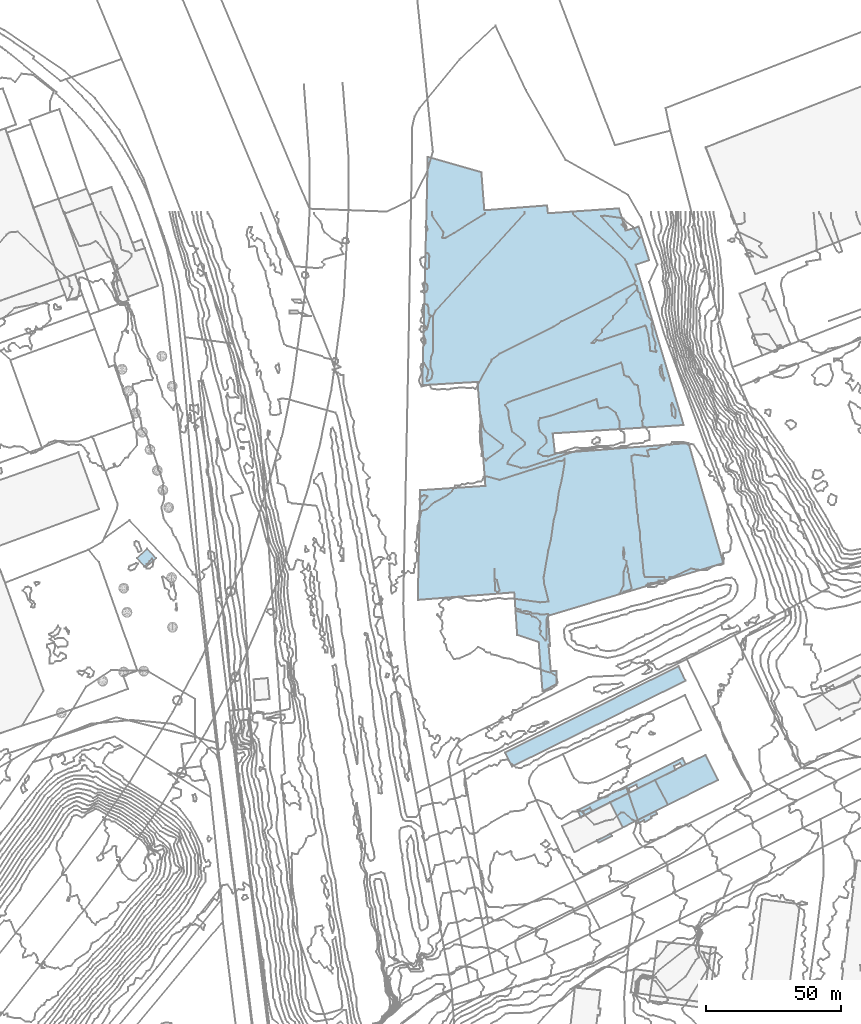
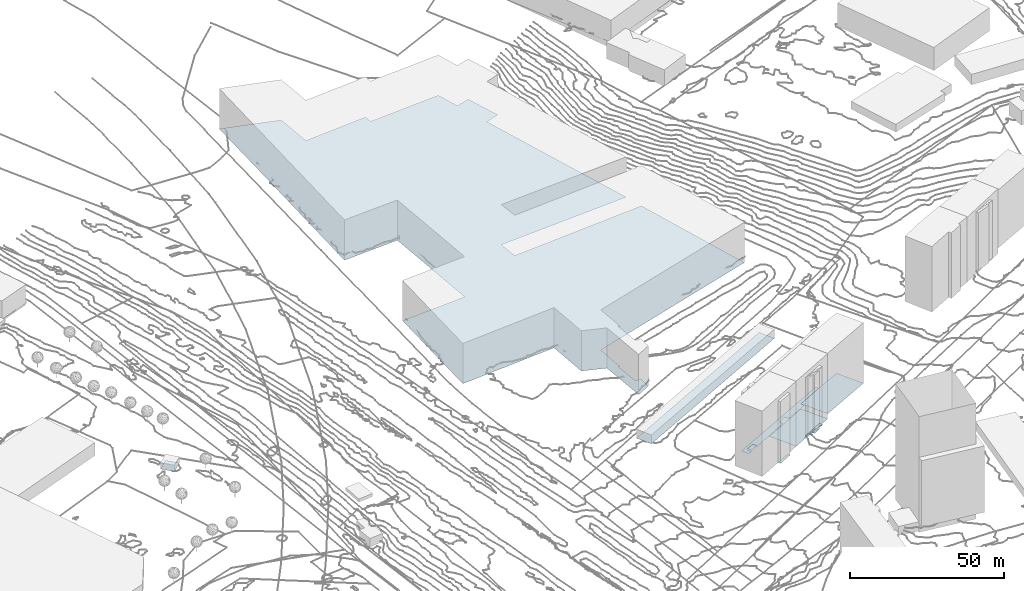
# Not in any storey, part 17 of 419: 9 footings.
"""IFC2X3 model written with IfcOpenShell, lengths in metres."""

from ifc_helpers import new_model, si_unit, frame, origin_with_axes, place, context, subcontext, project, faceted_brep, element, save


model = new_model("IFC2X3")

# Units and contexts
model_context = context("Model", 3, precision=1e-05, world=origin_with_axes())
body_context = subcontext(model_context, "Body", "Model", "MODEL_VIEW")
ifc_project = project(units=[si_unit("AREAUNIT", "SQUARE_METRE"), si_unit("LENGTHUNIT", "METRE")], contexts=[model_context])

# Footings
footing_1_placement = place(None, frame((290.7920204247, 821.6976909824, 30.277000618), z_axis=(0.0, 0.0, 1.0), x_axis=(1.0, 0.0, 0.0)))
element("IfcFooting", 1, at=footing_1_placement, Name="Sol 0", PredefinedType="STRIP_FOOTING", context=body_context, shape_type="Brep", body=[
    faceted_brep([(0.0, 0.0, 0.0), (11.4, 5.7999999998, 0.0), (18.7000000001, 9.2000000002, 0.0), (23.4, 0.0, 0.0), (4.7000000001, -9.2000000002, 0.0)], [[[0, 1, 2]], [[3, 4, 0]], [[0, 2, 3]]]),
])
footing_2_placement = place(None, frame((269.1920204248, 799.2976909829, 28.2199993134), z_axis=(0.0, 0.0, 1.0), x_axis=(1.0, 0.0, 0.0)))
element("IfcFooting", 2, at=footing_2_placement, Name="Sol 0", PredefinedType="STRIP_FOOTING", context=body_context, shape_type="Brep", body=[
    faceted_brep([(0.5, -0.9000000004, 0.0), (0.0, 0.0, 0.0), (5.1, 2.5, 0.0), (5.5, 1.5999999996, 0.0)], [[[0, 1, 2]], [[2, 3, 0]]]),
])
footing_3_placement = place(None, frame((98.4920204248, 904.0976909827, 21.8522004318), z_axis=(0.0, 0.0, 1.0), x_axis=(1.0, 0.0, 0.0)))
element("IfcFooting", 3, at=footing_3_placement, Name="Sol 0", PredefinedType="STRIP_FOOTING", context=body_context, shape_type="Brep", body=[
    faceted_brep([(0.0, 0.0, 0.0), (3.7999999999, 3.5, 0.0), (7.0, -0.1000000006, 0.0), (3.2, -3.5, 0.0)], [[[0, 1, 2]], [[2, 3, 0]]]),
])
footing_4_placement = place(None, frame((274.0920204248, 813.3976909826, 28.3087998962), z_axis=(0.0, 0.0, 1.0), x_axis=(1.0, 0.0, 0.0)))
element("IfcFooting", 4, at=footing_4_placement, Name="Sol 0", PredefinedType="STRIP_FOOTING", context=body_context, shape_type="Brep", body=[
    faceted_brep([(0.0, 0.0, 0.0), (16.7, 8.2999999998, 0.0), (21.4, -0.9000000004, 0.0), (4.7, -9.2999999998, 0.0)], [[[0, 1, 2]], [[2, 3, 0]]]),
])
footing_5_placement = place(None, frame((235.0920204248, 831.8976909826, 29.9789994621), z_axis=(0.0, 0.0, 1.0), x_axis=(1.0, 0.0, 0.0)))
element("IfcFooting", 5, at=footing_5_placement, Name="Sol 0", PredefinedType="STRIP_FOOTING", context=body_context, shape_type="Brep", body=[
    faceted_brep([(67.0, 26.5999999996, 0.0), (2.6, -5.2000000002, 0.0), (0.0, 0.0, 0.0), (64.4, 32.0, 0.0)], [[[0, 1, 2]], [[2, 3, 0]]]),
])
footing_6_placement = place(None, frame((264.0920204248, 810.0976909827, 28.9349998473), z_axis=(0.0, 0.0, 1.0), x_axis=(1.0, 0.0, 0.0)))
element("IfcFooting", 6, at=footing_6_placement, Name="Sol 0", PredefinedType="STRIP_FOOTING", context=body_context, shape_type="Brep", body=[
    faceted_brep([(2.6, 1.2999999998, 0.0), (3.5, 0.0, 0.0), (0.5, -1.6000000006, 0.0), (0.0, 0.0, 0.0)], [[[0, 1, 2]], [[2, 3, 0]]]),
])
footing_7_placement = place(None, frame((261.9920204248, 810.4976909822, 28.4848001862), z_axis=(0.0, 0.0, 1.0), x_axis=(1.0, 0.0, 0.0)))
element("IfcFooting", 7, at=footing_7_placement, Name="Sol 0", PredefinedType="STRIP_FOOTING", context=body_context, shape_type="Brep", body=[
    faceted_brep([(39.0, 19.3000000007, 0.0), (40.2, 17.0, 0.0), (38.7999999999, 16.3000000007, 0.0), (2.6, -2.0, 0.0), (1.2, -2.6999999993, 0.0), (0.0, 0.0, 0.0), (19.5, 6.6000000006, 0.0), (5.6, -0.3999999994, 0.0), (4.7, 0.9000000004, 0.0), (36.2999999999, 14.9000000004, 0.0), (22.4, 8.1000000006, 0.0), (21.7999999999, 9.5, 0.0), (38.1, 17.5, 0.0), (2.1, -0.3999999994, 0.0), (19.0, 8.0, 0.0), (35.7999999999, 16.3000000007, 0.0)], [[[0, 1, 2]], [[3, 4, 5]], [[6, 7, 8]], [[9, 10, 11]], [[0, 2, 12]], [[13, 3, 5]], [[14, 6, 8]], [[15, 9, 11]], [[0, 12, 15]], [[13, 5, 0]], [[11, 14, 8]], [[0, 15, 11]], [[8, 13, 0]], [[0, 11, 8]]]),
])
footing_8_placement = place(None, frame((283.6920204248, 806.3976909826, 29.4510004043), z_axis=(0.0, 0.0, 1.0), x_axis=(1.0, 0.0, 0.0)))
element("IfcFooting", 8, at=footing_8_placement, Name="Sol 0", PredefinedType="STRIP_FOOTING", context=body_context, shape_type="Brep", body=[
    faceted_brep([(0.0, 0.0, 0.0), (7.4, 3.7999999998, 0.0), (7.7000000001, 2.5999999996, 0.0), (2.9, 0.2999999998, 0.0), (0.4, -0.9000000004, 0.0), (5.8, 1.0999999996, 0.0), (3.2000000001, -0.4000000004, 0.0), (5.5, 1.7000000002, 0.0)], [[[0, 1, 2]], [[3, 4, 0]], [[5, 6, 3]], [[0, 2, 7]], [[5, 3, 0]], [[0, 7, 5]]]),
])
footing_9_placement = place(None, frame((202.6920204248, 888.4976909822, 28.5593996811), z_axis=(0.0, 0.0, 1.0), x_axis=(1.0, 0.0, 0.0)))
element("IfcFooting", 9, at=footing_9_placement, Name="Sol 0", PredefinedType="STRIP_FOOTING", context=body_context, shape_type="Brep", body=[
    faceted_brep([(35.8, 2.8000000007, 0.0), (0.0, 0.0, 0.0), (0.9, 40.7000000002, 0.0), (44.9, -15.6999999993, 0.0), (36.9, -13.0, 0.0), (51.4, -26.3999999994, 0.0), (51.5, -31.1999999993, 0.0), (46.3, -33.8999999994, 0.0), (48.3, -5.8999999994, 0.0), (49.1, -17.0999999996, 0.0), (48.5, -16.5999999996, 0.0), (100.5, 58.2000000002, 0.0), (113.4, 13.7000000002, 0.0), (80.9, 124.4000000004, 0.0), (98.7000000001, 64.9000000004, 0.0), (50.1, 61.8000000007, 0.0), (82.0, 138.5, 0.0), (85.9, 126.1000000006, 0.0), (48.3, 143.5, 0.0), (74.7000000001, 145.3000000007, 0.0), (77.1, 137.1000000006, 0.0), (24.7000000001, 144.6000000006, 0.0), (48.0, 146.4000000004, 0.0), (3.7000000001, 164.4000000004, 0.0), (23.6, 158.7000000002, 0.0), (22.2000000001, 80.9000000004, 0.0), (1.7000000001, 79.7000000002, 0.0), (25.1, 42.3000000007, 0.0), (49.4, -26.5, 0.0), (50.9, 54.4000000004, 0.0)], [[[0, 1, 2]], [[3, 4, 0]], [[5, 6, 7]], [[8, 9, 10]], [[11, 12, 8]], [[13, 14, 15]], [[16, 17, 13]], [[18, 19, 20]], [[21, 22, 18]], [[23, 24, 21]], [[25, 26, 23]], [[0, 2, 27]], [[28, 5, 7]], [[29, 11, 8]], [[16, 13, 15]], [[21, 18, 20]], [[25, 23, 21]], [[0, 27, 25]], [[28, 7, 3]], [[15, 29, 8]], [[20, 16, 15]], [[25, 21, 20]], [[3, 0, 25]], [[10, 28, 3]], [[25, 20, 15]], [[10, 3, 25]], [[25, 15, 8]], [[8, 10, 25]]]),
])

save(model, "model.ifc")
